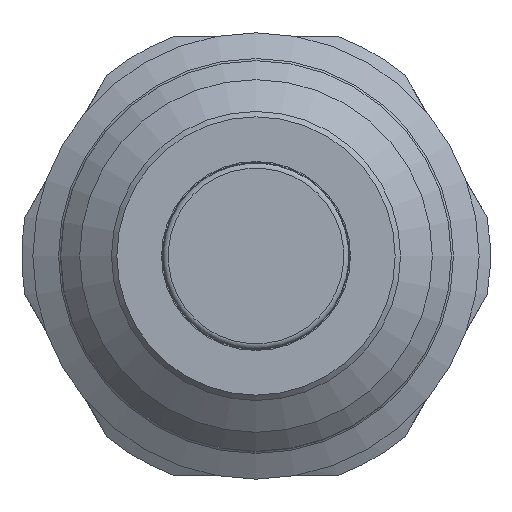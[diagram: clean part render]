
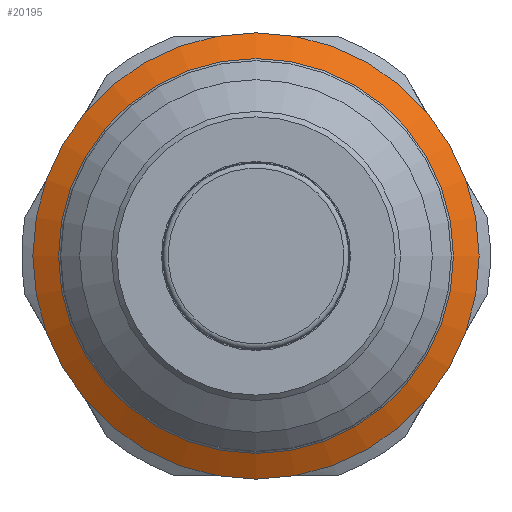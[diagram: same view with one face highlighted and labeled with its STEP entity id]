
A CAD part, front view. The second image highlights one B-rep face of the part: STEP entity #20195.
In plain terms, the highlighted conical face has half-angle 60 degrees and reference radius 19.55 mm.
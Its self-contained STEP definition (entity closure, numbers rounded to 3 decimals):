
#37=CONICAL_SURFACE('',#21211,19.55,1.047);
#2892=LINE('',#35617,#4069);
#4069=VECTOR('',#23197,19.55);
#6348=FACE_OUTER_BOUND('',#7437,.T.);
#7437=EDGE_LOOP('',(#16725,#16726,#16727,#16728,#16729));
#8169=CIRCLE('',#21194,20.85);
#8178=CIRCLE('',#21207,18.45);
#8179=CIRCLE('',#21208,18.45);
#9415=VERTEX_POINT('',#35584);
#9423=VERTEX_POINT('',#35607);
#9424=VERTEX_POINT('',#35609);
#11988=EDGE_CURVE('',#9415,#9415,#8169,.T.);
#11999=EDGE_CURVE('',#9423,#9424,#8178,.T.);
#12000=EDGE_CURVE('',#9424,#9423,#8179,.T.);
#12003=EDGE_CURVE('',#9415,#9424,#2892,.T.);
#16725=ORIENTED_EDGE('',*,*,#11988,.F.);
#16726=ORIENTED_EDGE('',*,*,#12003,.T.);
#16727=ORIENTED_EDGE('',*,*,#11999,.F.);
#16728=ORIENTED_EDGE('',*,*,#12000,.F.);
#16729=ORIENTED_EDGE('',*,*,#12003,.F.);
#20195=ADVANCED_FACE('',(#6348),#37,.T.);
#21194=AXIS2_PLACEMENT_3D('',#35586,#23158,#23159);
#21207=AXIS2_PLACEMENT_3D('',#35610,#23186,#23187);
#21208=AXIS2_PLACEMENT_3D('',#35611,#23188,#23189);
#21211=AXIS2_PLACEMENT_3D('',#35616,#23195,#23196);
#23158=DIRECTION('center_axis',(0.,1.,0.));
#23159=DIRECTION('ref_axis',(1.,0.,0.));
#23186=DIRECTION('center_axis',(0.,-1.,0.));
#23187=DIRECTION('ref_axis',(1.,0.,0.));
#23188=DIRECTION('center_axis',(0.,-1.,0.));
#23189=DIRECTION('ref_axis',(1.,0.,0.));
#23195=DIRECTION('center_axis',(0.,1.,0.));
#23196=DIRECTION('ref_axis',(-1.,0.,0.));
#23197=DIRECTION('',(-0.866,-0.5,0.));
#35584=CARTESIAN_POINT('',(20.85,-0.599,0.));
#35586=CARTESIAN_POINT('Origin',(0.,-0.599,0.));
#35607=CARTESIAN_POINT('',(0.,-1.985,-18.45));
#35609=CARTESIAN_POINT('',(18.45,-1.985,0.));
#35610=CARTESIAN_POINT('Origin',(0.,-1.985,0.));
#35611=CARTESIAN_POINT('Origin',(0.,-1.985,0.));
#35616=CARTESIAN_POINT('Origin',(0.,-1.349,0.));
#35617=CARTESIAN_POINT('',(19.55,-1.349,0.));
